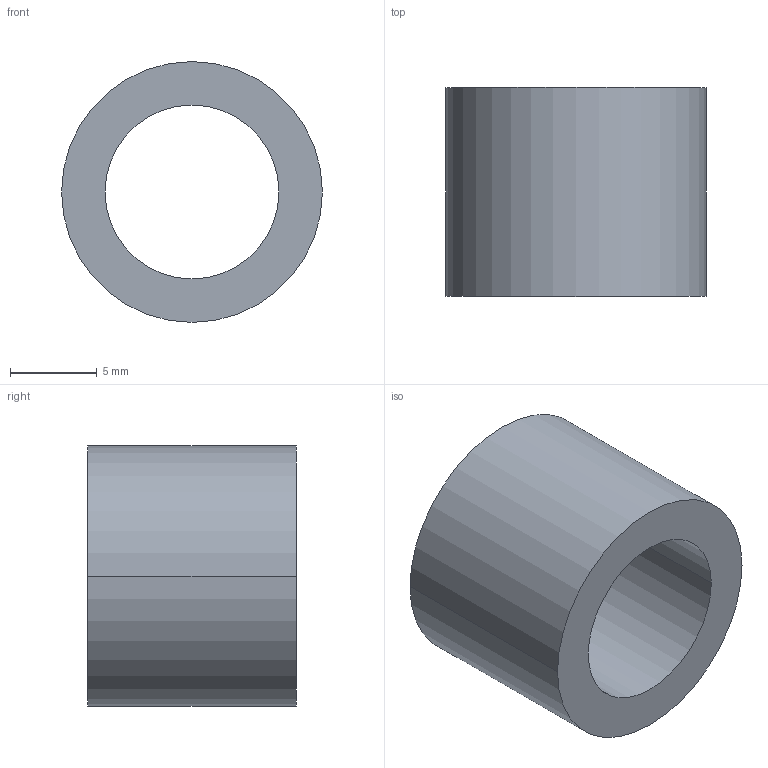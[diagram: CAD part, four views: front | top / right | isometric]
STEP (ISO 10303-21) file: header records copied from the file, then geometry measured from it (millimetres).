
FILE_DESCRIPTION (( 'STEP AP203' ), '1' );
FILE_NAME ('30800.WPP15E10.0.step', '2019-01-23T22:34:00', ( '' ), ( '' ), 'SwSTEP 2.0', 'SolidWorks 2017', '' );
FILE_SCHEMA (( 'CONFIG_CONTROL_DESIGN' ));
Length unit declared in the file: millimetre
Products named in the file (1): 30800.WPP15E10.0
Bounding box: 15 x 12 x 15 mm (x, y, z)
Volume: 1148.7 mm3; surface area: 1113.6 mm2
Topology: 1 solids, 1 shells, 8 faces, 16 edges, 10 vertices
Faces by surface type: cylinder 4, torus 2, plane 2
Entity records: 297 total; most frequent: DIRECTION 46, CARTESIAN_POINT 35, ORIENTED_EDGE 32, AXIS2_PLACEMENT_3D 21, EDGE_CURVE 16, CIRCLE 12, EDGE_LOOP 10, VERTEX_POINT 10
